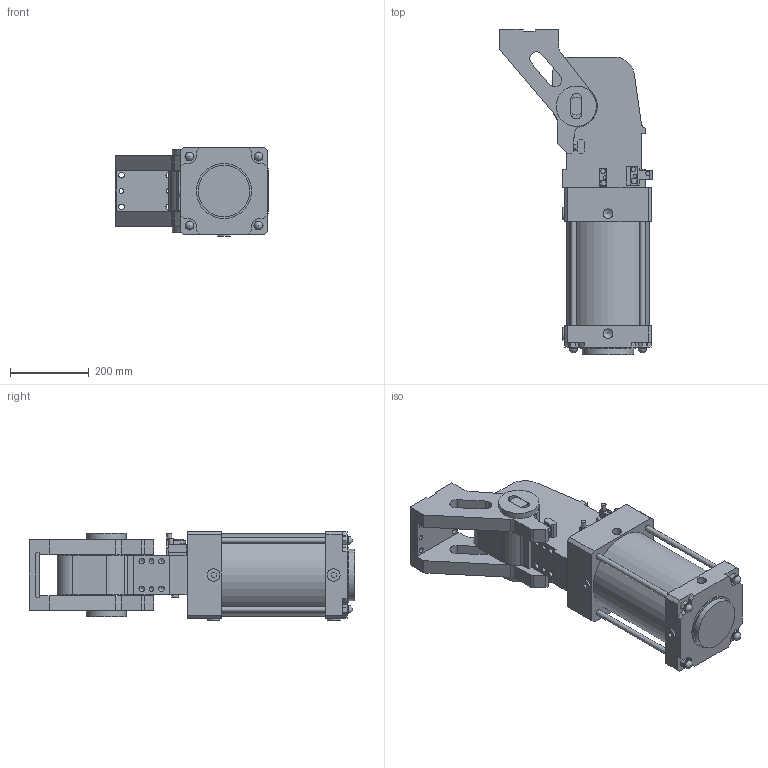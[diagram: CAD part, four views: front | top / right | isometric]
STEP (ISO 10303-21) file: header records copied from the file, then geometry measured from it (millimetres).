
FILE_DESCRIPTION(/* description */ (''),/* implementation_level */ '2;1');
FILE_NAME(/* name */ 'S:\Tom\INVENTOR FILES\AUTOMOTIVE\VEP\DUMP UNITS\C05.P015 RFM.2-RF.2\C05.P015 RFM.2-RF.2\RFM200\SATs\XPUZ200.2-107-2-ESL-P-G-X.stp',/* time_stamp */ '2018-07-29T18:22:53+01:00',/* author */ ('carl'),/* organization */ (''),/* preprocessor_version */ 'ST-DEVELOPER v16.13',/* originating_system */ 'Autodesk Inventor 2018',/* authorisation */ '');
FILE_SCHEMA (('AUTOMOTIVE_DESIGN { 1 0 10303 214 3 1 1 }'));
Length unit declared in the file: millimetre
Products named in the file (11): XPUZ200.2-107-2-ESL-P-G-X_TOP; XPUZ200; XPUZ200_1; XPUZ200_2; XPUZ200_3; XPUZ200_4; XPUZ200_5; XPUZ200_6; XPUZ200_7; XPUZ200_8; XPUZ200_9
Assembly tree (10 placements, depth 2):
  XPUZ200.2-107-2-ESL-P-G-X_TOP
    XPUZ200
    XPUZ200_1
    XPUZ200_2
    XPUZ200_3
    XPUZ200_4
    XPUZ200_5
    XPUZ200_6
    XPUZ200_7
    XPUZ200_8
    XPUZ200_9
Bounding box: 388 x 825 x 225 mm (x, y, z)
Volume: 26158853.9 mm3; surface area: 1087021.4 mm2
Topology: 10 solids, 10 shells, 418 faces, 1044 edges, 687 vertices
Faces by surface type: plane 288, cylinder 108, cone 18, sphere 4
Full cylindrical faces by diameter (mm): 5.5 x2, 8.5 x2, 10 x3, 10.2 x1, 11.8 x2, 12 x8, 13 x1, 14 x16, 18 x1, 21 x4, 24.5 x6, 26 x4, 32 x4, 45 x1, 50.5 x1, 60 x2, 102 x2, 131 x1, 140 x1, 210 x1
Entity records: 12151 total; most frequent: DIRECTION 2030, CARTESIAN_POINT 2027, ORIENTED_EDGE 1860, EDGE_CURVE 930, LINE 708, VECTOR 708, AXIS2_PLACEMENT_3D 661, VERTEX_POINT 658
